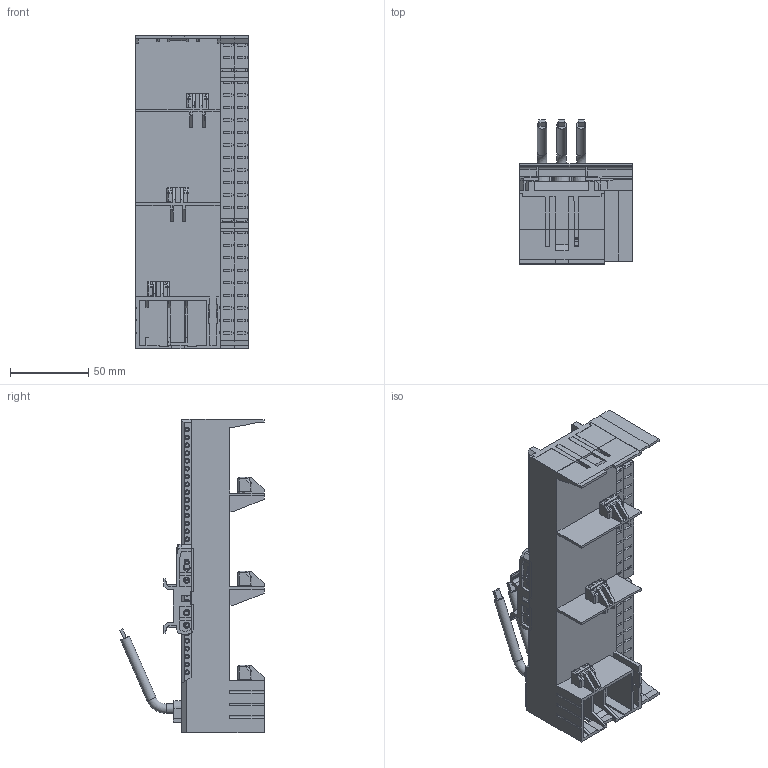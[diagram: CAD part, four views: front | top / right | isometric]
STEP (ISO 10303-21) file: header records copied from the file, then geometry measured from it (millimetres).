
FILE_DESCRIPTION (( 'STEP AP203' ), '1' );
FILE_NAME ('55370.STEP', '2021-08-18T05:50:46', ( '' ), ( '' ), 'SwSTEP 2.0', 'SolidWorks 2017', '' );
FILE_SCHEMA (( 'CONFIG_CONTROL_DESIGN' ));
Length unit declared in the file: millimetre
Products named in the file (2): 55370
Bounding box: 72.05 x 92.2 x 200.4 mm (x, y, z)
Volume: 401283.9 mm3; surface area: 129526.3 mm2
Topology: 7 solids, 24 shells, 2129 faces, 5867 edges, 3934 vertices
Faces by surface type: plane 1568, cylinder 374, cone 161, bspline 23, torus 3
Full cylindrical faces by diameter (mm): 1.988 x130, 2.982 x6, 3.479 x4, 5.169 x2, 5.964 x7, 6 x6
Entity records: 76387 total; most frequent: CARTESIAN_POINT 24265, ORIENTED_EDGE 10908, DIRECTION 9742, EDGE_CURVE 5454, LINE 4080, VECTOR 4080, VERTEX_POINT 3828, AXIS2_PLACEMENT_3D 2831
